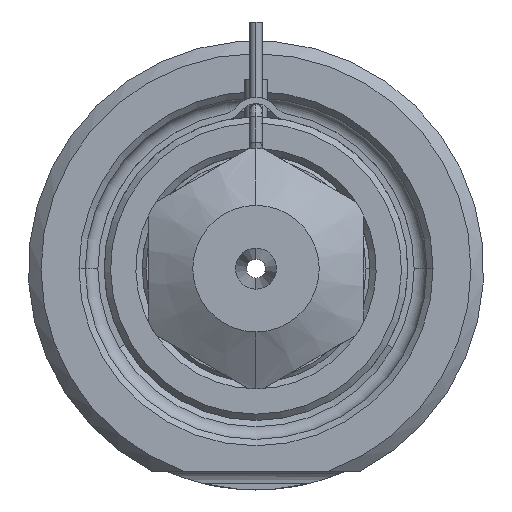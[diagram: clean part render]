
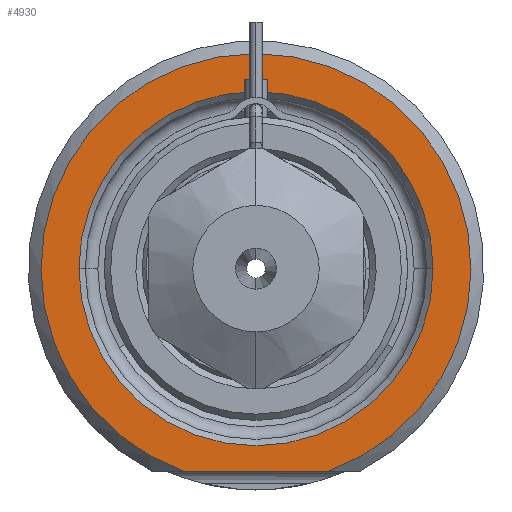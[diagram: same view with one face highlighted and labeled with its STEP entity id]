
A CAD part, front view. The second image highlights one B-rep face of the part: STEP entity #4930.
In plain terms, the highlighted planar face has unit normal (0, -1, 0).
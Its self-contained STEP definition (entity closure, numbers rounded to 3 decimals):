
#1508=DIRECTION('',(1.,0.,0.));
#1509=VECTOR('',#1508,11.489);
#1510=CARTESIAN_POINT('',(-5.745,0.,-16.));
#1511=LINE('',#1510,#1509);
#1512=CARTESIAN_POINT('',(0.,0.,0.));
#1513=DIRECTION('',(0.,1.,0.));
#1514=DIRECTION('',(-1.,0.,0.));
#1515=AXIS2_PLACEMENT_3D('',#1512,#1513,#1514);
#1517=CARTESIAN_POINT('',(0.,0.,0.));
#1518=DIRECTION('',(0.,1.,0.));
#1519=DIRECTION('',(1.,0.,0.));
#1520=AXIS2_PLACEMENT_3D('',#1517,#1518,#1519);
#1624=CARTESIAN_POINT('',(0.,0.,0.));
#1625=DIRECTION('',(0.,-1.,0.));
#1626=DIRECTION('',(0.338,0.,-0.941));
#1627=AXIS2_PLACEMENT_3D('',#1624,#1625,#1626);
#2581=CARTESIAN_POINT('',(-14.,0.,0.));
#2582=CARTESIAN_POINT('',(14.,0.,0.));
#2583=VERTEX_POINT('',#2581);
#2584=VERTEX_POINT('',#2582);
#2621=CARTESIAN_POINT('',(-5.745,0.,-16.));
#2622=CARTESIAN_POINT('',(5.745,0.,-16.));
#2623=VERTEX_POINT('',#2621);
#2624=VERTEX_POINT('',#2622);
#4914=CARTESIAN_POINT('',(0.,0.,0.));
#4915=DIRECTION('',(0.,-1.,0.));
#4916=DIRECTION('',(1.,0.,0.));
#4917=AXIS2_PLACEMENT_3D('',#4914,#4915,#4916);
#4918=PLANE('',#4917);
#4920=ORIENTED_EDGE('',*,*,#4919,.F.);
#4922=ORIENTED_EDGE('',*,*,#4921,.F.);
#4923=EDGE_LOOP('',(#4920,#4922));
#4924=FACE_OUTER_BOUND('',#4923,.F.);
#4926=ORIENTED_EDGE('',*,*,#4925,.F.);
#4927=ORIENTED_EDGE('',*,*,#4904,.F.);
#4928=EDGE_LOOP('',(#4926,#4927));
#4929=FACE_BOUND('',#4928,.F.);
#4930=ADVANCED_FACE('',(#4924,#4929),#4918,.T.);
#1516=CIRCLE('',#1515,14.);
#1521=CIRCLE('',#1520,14.);
#1628=CIRCLE('',#1627,17.);
#4904=EDGE_CURVE('',#2584,#2583,#1521,.T.);
#4919=EDGE_CURVE('',#2623,#2624,#1511,.T.);
#4921=EDGE_CURVE('',#2624,#2623,#1628,.T.);
#4925=EDGE_CURVE('',#2583,#2584,#1516,.T.);
